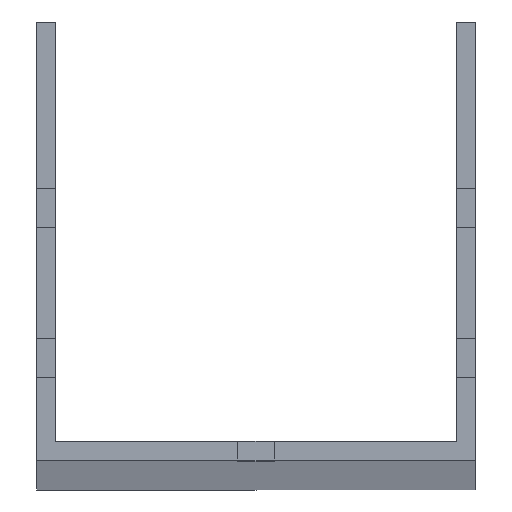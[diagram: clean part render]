
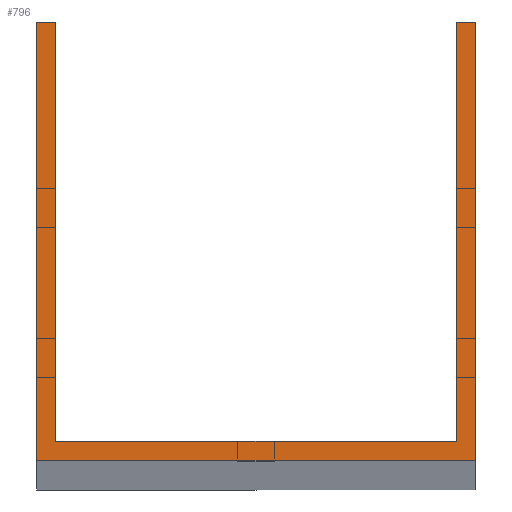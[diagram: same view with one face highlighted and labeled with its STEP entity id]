
A CAD part, top view. The second image highlights one B-rep face of the part: STEP entity #796.
In plain terms, the highlighted planar face has unit normal (0, 0, 1).
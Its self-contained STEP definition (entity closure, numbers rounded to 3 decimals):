
#25 = LINE ( 'NONE', #1593, #1096 ) ;
#29 = CARTESIAN_POINT ( 'NONE',  ( 36., 79., 1500. ) ) ;
#30 = EDGE_CURVE ( 'NONE', #374, #1577, #176, .T. ) ;
#98 = LINE ( 'NONE', #1405, #184 ) ;
#106 = CARTESIAN_POINT ( 'NONE',  ( -39.5, 79., 1500. ) ) ;
#169 = ORIENTED_EDGE ( 'NONE', *, *, #681, .F. ) ;
#176 = LINE ( 'NONE', #1389, #1417 ) ;
#183 = VECTOR ( 'NONE', #434, 1000. ) ;
#184 = VECTOR ( 'NONE', #520, 1000. ) ;
#234 = VECTOR ( 'NONE', #240, 1000. ) ;
#238 = EDGE_LOOP ( 'NONE', ( #1583, #1595, #769, #1625, #308, #1060, #698, #169 ) ) ;
#240 = DIRECTION ( 'NONE',  ( -1., 0., 0. ) ) ;
#264 = VECTOR ( 'NONE', #1038, 1000. ) ;
#277 = EDGE_CURVE ( 'NONE', #735, #374, #1603, .T. ) ;
#283 = CARTESIAN_POINT ( 'NONE',  ( -39.5, 0., 1500. ) ) ;
#294 = CARTESIAN_POINT ( 'NONE',  ( -39.5, 0., 1500. ) ) ;
#308 = ORIENTED_EDGE ( 'NONE', *, *, #30, .T. ) ;
#316 = CARTESIAN_POINT ( 'NONE',  ( -39.5, 79., 1500. ) ) ;
#335 = VERTEX_POINT ( 'NONE', #316 ) ;
#344 = VERTEX_POINT ( 'NONE', #29 ) ;
#372 = VECTOR ( 'NONE', #992, 1000. ) ;
#374 = VERTEX_POINT ( 'NONE', #577 ) ;
#434 = DIRECTION ( 'NONE',  ( 1., 0., 0. ) ) ;
#447 = CARTESIAN_POINT ( 'NONE',  ( -36., 79., 1500. ) ) ;
#520 = DIRECTION ( 'NONE',  ( -1., 0., 0. ) ) ;
#577 = CARTESIAN_POINT ( 'NONE',  ( 39.5, 0., 1500. ) ) ;
#596 = CARTESIAN_POINT ( 'NONE',  ( -36., 79., 1500. ) ) ;
#600 = CARTESIAN_POINT ( 'NONE',  ( 0., 0., 1500. ) ) ;
#601 = EDGE_CURVE ( 'NONE', #1577, #344, #1526, .T. ) ;
#632 = CARTESIAN_POINT ( 'NONE',  ( 36., 3.5, 1500. ) ) ;
#681 = EDGE_CURVE ( 'NONE', #1448, #1097, #25, .T. ) ;
#698 = ORIENTED_EDGE ( 'NONE', *, *, #1277, .F. ) ;
#719 = CARTESIAN_POINT ( 'NONE',  ( 36., 79., 1500. ) ) ;
#735 = VERTEX_POINT ( 'NONE', #283 ) ;
#769 = ORIENTED_EDGE ( 'NONE', *, *, #1461, .T. ) ;
#775 = VECTOR ( 'NONE', #1243, 1000. ) ;
#777 = LINE ( 'NONE', #106, #264 ) ;
#784 = EDGE_CURVE ( 'NONE', #932, #1448, #1234, .T. ) ;
#796 = ADVANCED_FACE ( 'NONE', ( #1088 ), #847, .T. ) ;
#847 = PLANE ( 'NONE',  #1535 ) ;
#882 = CARTESIAN_POINT ( 'NONE',  ( -39.5, 79., 1500. ) ) ;
#932 = VERTEX_POINT ( 'NONE', #596 ) ;
#992 = DIRECTION ( 'NONE',  ( 0., 1., 0. ) ) ;
#1038 = DIRECTION ( 'NONE',  ( 0., -1., 0. ) ) ;
#1060 = ORIENTED_EDGE ( 'NONE', *, *, #601, .T. ) ;
#1088 = FACE_OUTER_BOUND ( 'NONE', #238, .T. ) ;
#1091 = EDGE_CURVE ( 'NONE', #932, #335, #98, .T. ) ;
#1096 = VECTOR ( 'NONE', #1569, 1000. ) ;
#1097 = VERTEX_POINT ( 'NONE', #632 ) ;
#1100 = LINE ( 'NONE', #719, #372 ) ;
#1123 = DIRECTION ( 'NONE',  ( 0., 0., 1. ) ) ;
#1147 = CARTESIAN_POINT ( 'NONE',  ( 39.5, 79., 1500. ) ) ;
#1234 = LINE ( 'NONE', #447, #775 ) ;
#1243 = DIRECTION ( 'NONE',  ( 0., -1., 0. ) ) ;
#1277 = EDGE_CURVE ( 'NONE', #1097, #344, #1100, .T. ) ;
#1377 = DIRECTION ( 'NONE',  ( 1., 0., 0. ) ) ;
#1389 = CARTESIAN_POINT ( 'NONE',  ( 39.5, 79., 1500. ) ) ;
#1405 = CARTESIAN_POINT ( 'NONE',  ( -39.5, 79., 1500. ) ) ;
#1417 = VECTOR ( 'NONE', #1639, 1000. ) ;
#1448 = VERTEX_POINT ( 'NONE', #1566 ) ;
#1461 = EDGE_CURVE ( 'NONE', #335, #735, #777, .T. ) ;
#1526 = LINE ( 'NONE', #882, #234 ) ;
#1535 = AXIS2_PLACEMENT_3D ( 'NONE', #600, #1123, #1377 ) ;
#1566 = CARTESIAN_POINT ( 'NONE',  ( -36., 3.5, 1500. ) ) ;
#1569 = DIRECTION ( 'NONE',  ( 1., 0., 0. ) ) ;
#1577 = VERTEX_POINT ( 'NONE', #1147 ) ;
#1583 = ORIENTED_EDGE ( 'NONE', *, *, #784, .F. ) ;
#1593 = CARTESIAN_POINT ( 'NONE',  ( -39.5, 3.5, 1500. ) ) ;
#1595 = ORIENTED_EDGE ( 'NONE', *, *, #1091, .T. ) ;
#1603 = LINE ( 'NONE', #294, #183 ) ;
#1625 = ORIENTED_EDGE ( 'NONE', *, *, #277, .T. ) ;
#1639 = DIRECTION ( 'NONE',  ( 0., 1., 0. ) ) ;
